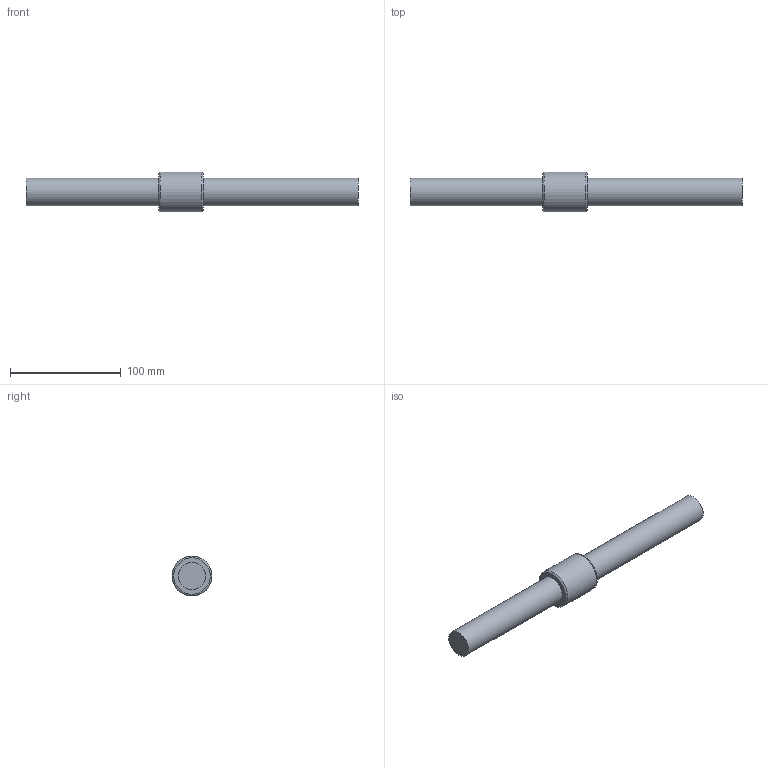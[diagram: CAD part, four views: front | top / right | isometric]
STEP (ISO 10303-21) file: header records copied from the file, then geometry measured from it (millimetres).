
FILE_DESCRIPTION((''),'2;1');
FILE_NAME('D:\製品 (図面)\カタログ用3D\ネジ関連\STEP形式\TMS\TMS25.stp','2010-06-02T15:33:02',('Tsuchiya'),(''),'Autodesk Inventor 10','Autodesk Inventor 10','');
FILE_SCHEMA(('AUTOMOTIVE_DESIGN { 1 0 10303 214 1 1 1 1 }'));
Length unit declared in the file: millimetre
Products named in the file (3): TMS25; TMS251; TMS252
Assembly tree (2 placements, depth 2):
  TMS25
    TMS251
    TMS252
Bounding box: 300 x 36 x 36 mm (x, y, z)
Volume: 168235.1 mm3; surface area: 33115.6 mm2
Topology: 2 solids, 2 shells, 9 faces, 13 edges, 8 vertices
Faces by surface type: plane 4, cylinder 3, torus 2
Full cylindrical faces by diameter (mm): 25 x2, 36 x1
Entity records: 254 total; most frequent: DIRECTION 44, CARTESIAN_POINT 30, AXIS2_PLACEMENT_3D 22, ORIENTED_EDGE 16, EDGE_LOOP 16, FACE_OUTER_BOUND 9, ADVANCED_FACE 9, VERTEX_POINT 8
